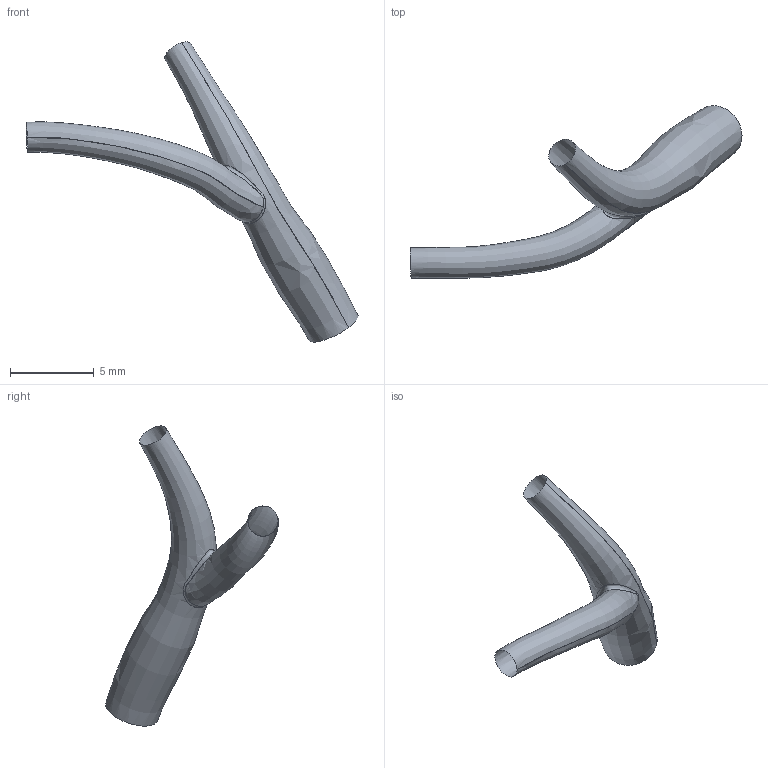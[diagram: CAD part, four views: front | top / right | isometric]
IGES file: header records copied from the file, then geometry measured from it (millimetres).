
Global section: file name: C:\Documents and Settings\Administrator\Desktop\FDA Bifurcation win\RawData_for_IGES\HRCA_Data\19990219.135207\IGES\19990219.135207.PDA.BIFUR.ES.igs; native system: Rhinoceros ( May 19 2006 ); preprocessor: Trout Lake IGES 012 May 19 2006; date: 100728.195725; units: centimetre
Bounding box: 19.79 x 10.31 x 17.9 mm (x, y, z)
Surface area: 263.4 mm2 (no closed solid volume)
Topology: 0 solids, 0 shells, 3 faces, 58 edges, 53 vertices
Faces by surface type: bspline 3
